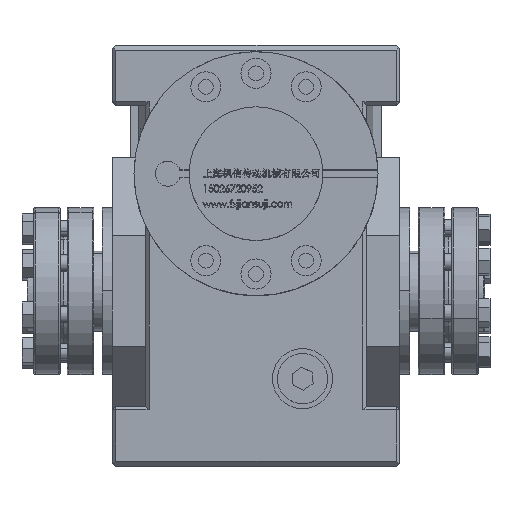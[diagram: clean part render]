
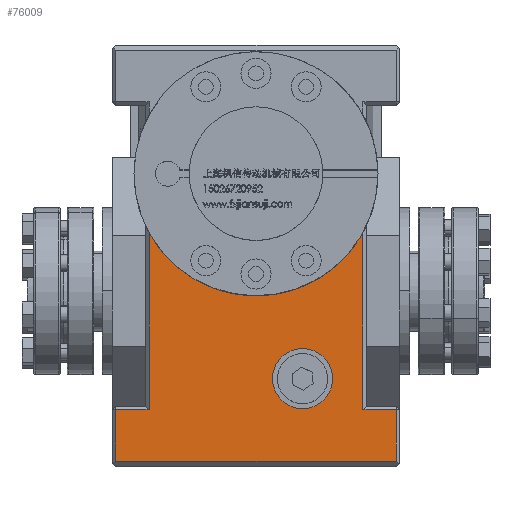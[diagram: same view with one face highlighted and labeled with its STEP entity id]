
A CAD part, top view. The second image highlights one B-rep face of the part: STEP entity #76009.
In plain terms, the highlighted planar face has unit normal (0, 0, 1).
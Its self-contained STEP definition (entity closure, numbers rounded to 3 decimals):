
#71 = CARTESIAN_POINT ( 'NONE',  ( 43., -35.5, 52. ) ) ;
#1691 = VECTOR ( 'NONE', #65969, 1000. ) ;
#2805 = CARTESIAN_POINT ( 'NONE',  ( 42., -35.5, 52. ) ) ;
#2909 = CARTESIAN_POINT ( 'NONE',  ( -32., -34.5, 52. ) ) ;
#3229 = ORIENTED_EDGE ( 'NONE', *, *, #50376, .F. ) ;
#3433 = CARTESIAN_POINT ( 'NONE',  ( 22.928, -26.28, 52. ) ) ;
#6961 = DIRECTION ( 'NONE',  ( 0., 1., 0. ) ) ;
#7465 = AXIS2_PLACEMENT_3D ( 'NONE', #16673, #42928, #68351 ) ;
#9682 = VERTEX_POINT ( 'NONE', #24887 ) ;
#10450 = FACE_OUTER_BOUND ( 'NONE', #29167, .T. ) ;
#11075 = DIRECTION ( 'NONE',  ( 0., -1., 0. ) ) ;
#11676 = VERTEX_POINT ( 'NONE', #25034 ) ;
#11750 = EDGE_CURVE ( 'NONE', #45775, #52577, #78345, .T. ) ;
#11895 = CARTESIAN_POINT ( 'NONE',  ( -32., -35.5, 52. ) ) ;
#11998 = VERTEX_POINT ( 'NONE', #2805 ) ;
#12281 = CARTESIAN_POINT ( 'NONE',  ( 32., 17.443, 52. ) ) ;
#12543 = CARTESIAN_POINT ( 'NONE',  ( 13.928, -26.28, 52. ) ) ;
#13921 = VECTOR ( 'NONE', #14970, 1000. ) ;
#14009 = CARTESIAN_POINT ( 'NONE',  ( 13.928, -26.28, 52. ) ) ;
#14361 = ORIENTED_EDGE ( 'NONE', *, *, #57000, .T. ) ;
#14615 = DIRECTION ( 'NONE',  ( 0., 1., 0. ) ) ;
#14970 = DIRECTION ( 'NONE',  ( 0., -1., 0. ) ) ;
#16673 = CARTESIAN_POINT ( 'NONE',  ( 43., 73.5, 52. ) ) ;
#17309 = LINE ( 'NONE', #35653, #70445 ) ;
#17682 = LINE ( 'NONE', #71, #19607 ) ;
#19230 = ORIENTED_EDGE ( 'NONE', *, *, #69038, .T. ) ;
#19607 = VECTOR ( 'NONE', #61021, 1000. ) ;
#22550 = EDGE_CURVE ( 'NONE', #70388, #60546, #50705, .T. ) ;
#23244 = LINE ( 'NONE', #48667, #53212 ) ;
#23530 = EDGE_LOOP ( 'NONE', ( #35308, #81844 ) ) ;
#24887 = CARTESIAN_POINT ( 'NONE',  ( 32., -35.5, 52. ) ) ;
#25034 = CARTESIAN_POINT ( 'NONE',  ( -42., -51., 52. ) ) ;
#28704 = VERTEX_POINT ( 'NONE', #12281 ) ;
#28861 = CARTESIAN_POINT ( 'NONE',  ( -43., -35.5, 52. ) ) ;
#29167 = EDGE_LOOP ( 'NONE', ( #60809, #33966, #38301, #14361, #35125, #3229, #32485, #19230 ) ) ;
#29180 = FACE_BOUND ( 'NONE', #23530, .T. ) ;
#29903 = DIRECTION ( 'NONE',  ( 0., 1., 0. ) ) ;
#31204 = VERTEX_POINT ( 'NONE', #68601 ) ;
#32485 = ORIENTED_EDGE ( 'NONE', *, *, #11750, .T. ) ;
#33381 = AXIS2_PLACEMENT_3D ( 'NONE', #12543, #43799, #75896 ) ;
#33870 = AXIS2_PLACEMENT_3D ( 'NONE', #14009, #78612, #46930 ) ;
#33966 = ORIENTED_EDGE ( 'NONE', *, *, #72211, .T. ) ;
#34203 = CARTESIAN_POINT ( 'NONE',  ( 0., 35., 52. ) ) ;
#35125 = ORIENTED_EDGE ( 'NONE', *, *, #40680, .T. ) ;
#35308 = ORIENTED_EDGE ( 'NONE', *, *, #45037, .F. ) ;
#35435 = PLANE ( 'NONE',  #7465 ) ;
#35522 = LINE ( 'NONE', #28861, #1691 ) ;
#35653 = CARTESIAN_POINT ( 'NONE',  ( -42., 73.5, 52. ) ) ;
#35778 = EDGE_CURVE ( 'NONE', #41358, #11998, #23244, .T. ) ;
#36790 = CARTESIAN_POINT ( 'NONE',  ( -32., 17.443, 52. ) ) ;
#38301 = ORIENTED_EDGE ( 'NONE', *, *, #35778, .T. ) ;
#38622 = CARTESIAN_POINT ( 'NONE',  ( 32., 19.404, 52. ) ) ;
#40680 = EDGE_CURVE ( 'NONE', #9682, #28704, #70292, .T. ) ;
#41358 = VERTEX_POINT ( 'NONE', #50426 ) ;
#42428 = CARTESIAN_POINT ( 'NONE',  ( 4.928, -26.28, 52. ) ) ;
#42928 = DIRECTION ( 'NONE',  ( 0., 0., -1. ) ) ;
#43799 = DIRECTION ( 'NONE',  ( 0., 0., 1. ) ) ;
#44885 = AXIS2_PLACEMENT_3D ( 'NONE', #34203, #78405, #14615 ) ;
#45037 = EDGE_CURVE ( 'NONE', #60546, #70388, #75174, .T. ) ;
#45462 = LINE ( 'NONE', #57950, #71363 ) ;
#45775 = VERTEX_POINT ( 'NONE', #36790 ) ;
#46930 = DIRECTION ( 'NONE',  ( 1., 0., 0. ) ) ;
#48667 = CARTESIAN_POINT ( 'NONE',  ( 42., -34.5, 52. ) ) ;
#50376 = EDGE_CURVE ( 'NONE', #45775, #28704, #70159, .T. ) ;
#50426 = CARTESIAN_POINT ( 'NONE',  ( 42., -51., 52. ) ) ;
#50705 = CIRCLE ( 'NONE', #33381, 9. ) ;
#51290 = DIRECTION ( 'NONE',  ( 1., 0., 0. ) ) ;
#52577 = VERTEX_POINT ( 'NONE', #11895 ) ;
#53212 = VECTOR ( 'NONE', #29903, 1000. ) ;
#53473 = EDGE_CURVE ( 'NONE', #31204, #11676, #17309, .T. ) ;
#57000 = EDGE_CURVE ( 'NONE', #11998, #9682, #17682, .T. ) ;
#57950 = CARTESIAN_POINT ( 'NONE',  ( 43., -51., 52. ) ) ;
#60546 = VERTEX_POINT ( 'NONE', #3433 ) ;
#60809 = ORIENTED_EDGE ( 'NONE', *, *, #53473, .T. ) ;
#61021 = DIRECTION ( 'NONE',  ( -1., 0., 0. ) ) ;
#65969 = DIRECTION ( 'NONE',  ( -1., 0., 0. ) ) ;
#68351 = DIRECTION ( 'NONE',  ( 0., 1., 0. ) ) ;
#68601 = CARTESIAN_POINT ( 'NONE',  ( -42., -35.5, 52. ) ) ;
#69038 = EDGE_CURVE ( 'NONE', #52577, #31204, #35522, .T. ) ;
#70159 = CIRCLE ( 'NONE', #44885, 36.5 ) ;
#70292 = LINE ( 'NONE', #38622, #80055 ) ;
#70388 = VERTEX_POINT ( 'NONE', #42428 ) ;
#70445 = VECTOR ( 'NONE', #11075, 1000. ) ;
#71363 = VECTOR ( 'NONE', #51290, 1000. ) ;
#72211 = EDGE_CURVE ( 'NONE', #11676, #41358, #45462, .T. ) ;
#75174 = CIRCLE ( 'NONE', #33870, 9. ) ;
#75896 = DIRECTION ( 'NONE',  ( 1., 0., 0. ) ) ;
#76009 = ADVANCED_FACE ( 'NONE', ( #10450, #29180 ), #35435, .F. ) ;
#78345 = LINE ( 'NONE', #2909, #13921 ) ;
#78405 = DIRECTION ( 'NONE',  ( 0., 0., 1. ) ) ;
#78612 = DIRECTION ( 'NONE',  ( 0., 0., 1. ) ) ;
#80055 = VECTOR ( 'NONE', #6961, 1000. ) ;
#81844 = ORIENTED_EDGE ( 'NONE', *, *, #22550, .F. ) ;
